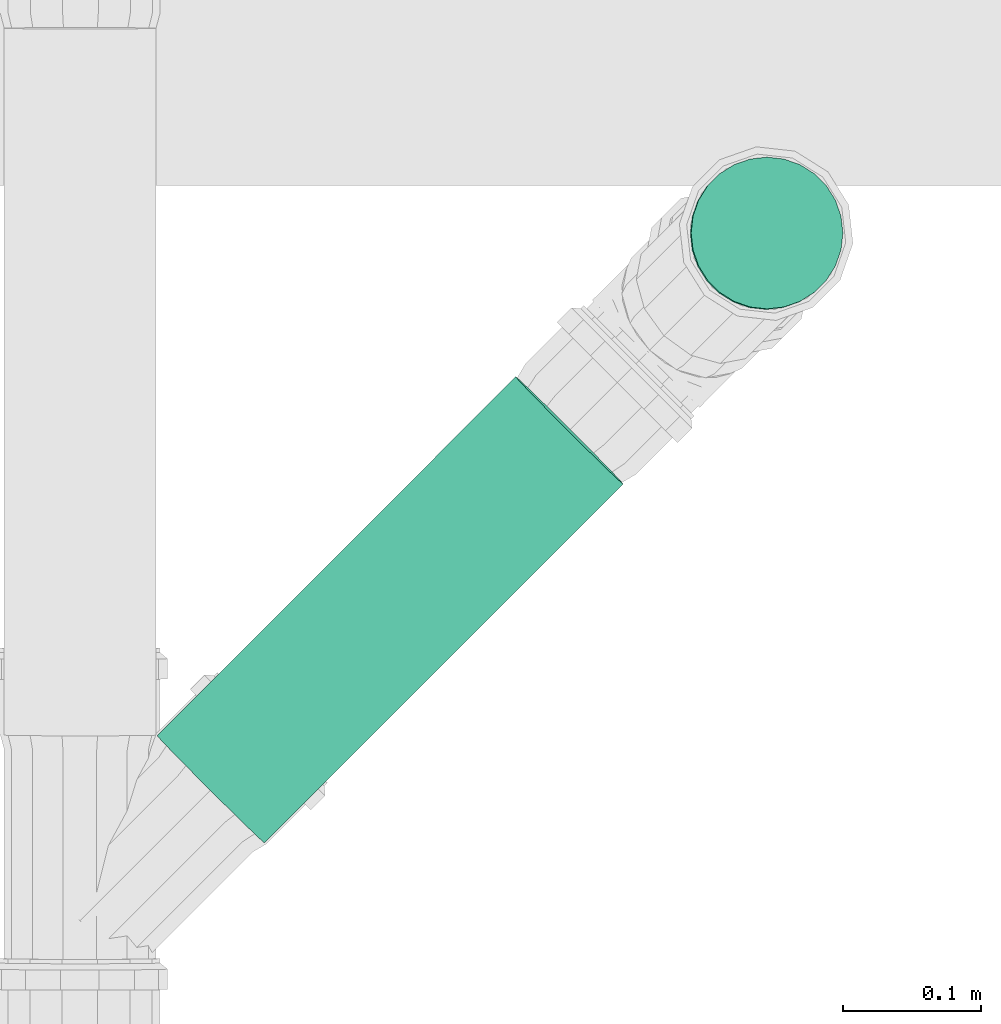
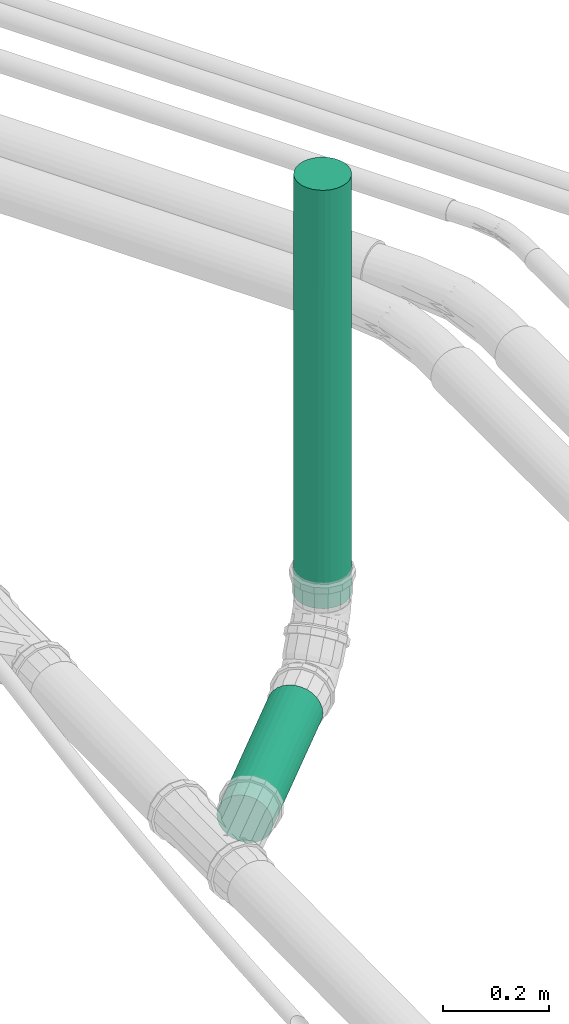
# One storey, part 10 of 18: 2 pipe segments.
"""IFC4 building model written with IfcOpenShell, lengths in centimetres."""

from ifc_helpers import new_model, entity, si_unit, converted_unit, derived_unit, direction, frame, origin, place, context, subcontext, project, spatial, arc, indexed_curve, outline, extrude, type_object, element, save


model = new_model("IFC4")

# Units and contexts
model_context = context("Model", 3, precision=0.001, world=origin(), true_north=direction((6.123233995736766e-17, 1.0)))
body_context = subcontext(model_context, "Body", "Model", "MODEL_VIEW")
ifc_project = project(units=[si_unit("LENGTHUNIT", "METRE", prefix="CENTI"), si_unit("AREAUNIT", "SQUARE_METRE"), converted_unit("PLANEANGLEUNIT", "DEGREE", entity("IfcPlaneAngleMeasure", 0.017453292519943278), si_unit("PLANEANGLEUNIT", "RADIAN"), dimensions=[0, 0, 0, 0, 0, 0, 0]), si_unit("VOLUMEUNIT", "CUBIC_METRE"), derived_unit("THERMALTRANSMITTANCEUNIT", [(si_unit("MASSUNIT", "GRAM", prefix="KILO"), 1), (si_unit("THERMODYNAMICTEMPERATUREUNIT", "KELVIN"), -1), (si_unit("TIMEUNIT", "SECOND"), -3)])], contexts=[model_context])

# Site, building, storey
site_placement = place(None, frame((-0.003347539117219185, 0.0, 0.0)))
site = spatial("IfcSite", under=ifc_project, at=site_placement, Name="Default", CompositionType="ELEMENT")
building_placement = place(site_placement, origin())
building = spatial("IfcBuilding", under=site, at=building_placement, CompositionType="ELEMENT")
storey_placement = place(building_placement, frame((0.0, 0.0, -30.0)))
storey = spatial("IfcBuildingStorey", under=building, at=storey_placement, Name="Fondation B.O.", CompositionType="ELEMENT", Elevation=-30.0)

# Pipe segments
pipe_segment_type = type_object("IfcPipeSegmentType", Name="Canalisation:Valsir PP3", PredefinedType="NOTDEFINED")
pipe_segment_1_placement = place(storey_placement, origin())
element("IfcPipeSegment", 1, at=pipe_segment_1_placement, inside=storey, type_object=pipe_segment_type, Name="Canalisation:Valsir PP3", ObjectType="Canalisation:Valsir PP3", PredefinedType="NOTDEFINED", context=body_context, shape_type="SweptSolid", body=[
    extrude(outline(indexed_curve([(5.500000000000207, -1.0044646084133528e-19), (3.8890872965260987, 3.889087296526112), (-1.930099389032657e-13, 5.5000000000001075), (-3.889087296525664, 3.889087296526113), (-5.500000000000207, 1.0044646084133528e-19), (-3.8890872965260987, -3.889087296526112), (1.930099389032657e-13, -5.5000000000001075), (3.889087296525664, -3.889087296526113)], segments=[arc(1, 2, 3), arc(3, 4, 5), arc(5, 6, 7), arc(7, 8, 1)], self_intersect=False)), frame((-5838.095786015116, -2323.376721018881, -26.96749212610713), z_axis=(0.0006562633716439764, 0.00046417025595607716, 0.9999996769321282), x_axis=(0.999999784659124, 0.0, -0.0006562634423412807)), (0.0, 0.0, 1.0), 96.66272360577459),
])
pipe_segment_2_placement = place(storey_placement, origin())
element("IfcPipeSegment", 2, at=pipe_segment_2_placement, inside=storey, type_object=pipe_segment_type, Name="Canalisation:Valsir PP3", ObjectType="Canalisation:Valsir PP3", PredefinedType="NOTDEFINED", context=body_context, shape_type="SweptSolid", body=[
    extrude(outline(indexed_curve([(5.500000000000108, -2.7692952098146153e-15), (3.8890872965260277, 3.889087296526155), (-4.1101892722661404e-13, 5.5000000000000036), (-3.8890872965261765, 3.8890872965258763), (-5.500000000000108, 1.6303418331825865e-14), (-3.8890872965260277, -3.889087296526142), (4.1101892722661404e-13, -5.5000000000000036), (3.8890872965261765, -3.8890872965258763)], segments=[arc(1, 2, 3), arc(3, 4, 5), arc(5, 6, 7), arc(7, 8, 1)], self_intersect=False)), frame((-5878.340128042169, -2363.6396329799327, -40.866988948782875), z_axis=(0.7067303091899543, 0.7073038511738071, 0.015922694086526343), x_axis=(-0.7073935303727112, 0.7068199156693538, 0.0)), (0.0, 0.0, 1.0), 36.769335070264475),
])

save(model, "model.ifc")
